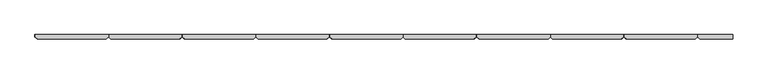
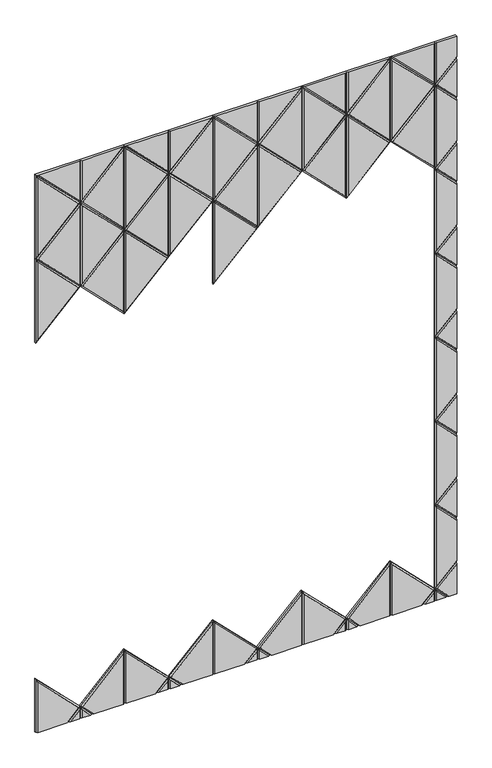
"""IFC4 building model written with IfcOpenShell, lengths in millimetres: proxy geometry, Wall_Akebia 6.3dm."""

from ifc_helpers import new_model, si_unit, origin, place, context, project, spatial, faceted_brep, source, transform, mapped, element, save


def generic_models_e9bd2cd0(model_context):
    return source(origin(), model_context, "Body", "Brep", [
        faceted_brep([(7817.1800942, 12.0, 2166.8919435), (7606.1440754, 12.0, 1955.8559246), (7606.1440754, 12.0, 2377.9279623), (7817.1800942, 6.0, 2166.8919435), (7606.1440754, 6.0, 2377.9279623), (7606.1440754, 6.0, 1955.8559246), (7612.1440754, 0.0, 1970.341206), (7808.6948129, 0.0, 2166.8919435), (7612.1440754, 0.0, 2363.4426809)], [[[0, 1, 2]], [[3, 0, 2, 4]], [[4, 2, 1, 5]], [[5, 1, 0, 3]], [[6, 7, 8]], [[3, 4, 8, 7]], [[4, 5, 6, 8]], [[5, 3, 7, 6]]]),
        faceted_brep([(6973.0360188, 12.0, 2166.8919435), (7184.0720377, 12.0, 2377.9279623), (7184.0720377, 12.0, 1955.8559246), (6973.0360188, 6.0, 2166.8919435), (7184.0720377, 6.0, 2377.9279623), (7184.0720377, 6.0, 1955.8559246), (7178.0720377, 0.0, 1970.341206), (7178.0720377, 0.0, 2363.4426809), (6981.5213002, 0.0, 2166.8919435)], [[[0, 1, 2]], [[3, 4, 1, 0]], [[4, 5, 2, 1]], [[5, 3, 0, 2]], [[6, 7, 8]], [[3, 8, 7, 4]], [[4, 7, 6, 5]], [[5, 6, 8, 3]]]),
        faceted_brep([(7395.1080565, 12.0, 2166.8919435), (7184.0720377, 12.0, 1955.8559246), (7184.0720377, 12.0, 2377.9279623), (7395.1080565, 6.0, 2166.8919435), (7184.0720377, 6.0, 2377.9279623), (7184.0720377, 6.0, 1955.8559246), (7190.0720377, 0.0, 1970.341206), (7386.6227752, 0.0, 2166.8919435), (7190.0720377, 0.0, 2363.4426809)], [[[0, 1, 2]], [[3, 0, 2, 4]], [[4, 2, 1, 5]], [[5, 1, 0, 3]], [[6, 7, 8]], [[3, 4, 8, 7]], [[4, 5, 6, 8]], [[5, 3, 7, 6]]]),
        faceted_brep([(6973.0360188, 12.0, 2166.8919435), (6762.0, 12.0, 1955.8559246), (6762.0, 12.0, 2377.9279623), (6973.0360188, 6.0, 2166.8919435), (6762.0, 6.0, 2377.9279623), (6762.0, 6.0, 1955.8559246), (6768.0, 0.0, 1970.341206), (6964.5507375, 0.0, 2166.8919435), (6768.0, 0.0, 2363.4426809)], [[[0, 1, 2]], [[3, 0, 2, 4]], [[4, 2, 1, 5]], [[5, 1, 0, 3]], [[6, 7, 8]], [[3, 4, 8, 7]], [[4, 5, 6, 8]], [[5, 3, 7, 6]]]),
        faceted_brep([(8450.2881508, 12.0, 2377.9279623), (8661.3241696, 12.0, 2588.9639812), (8661.3241696, 12.0, 2166.8919435), (8450.2881508, 6.0, 2377.9279623), (8661.3241696, 6.0, 2588.9639812), (8661.3241696, 6.0, 2166.8919435), (8655.3241696, 0.0, 2181.3772248), (8655.3241696, 0.0, 2574.4786998), (8458.7734321, 0.0, 2377.9279623)], [[[0, 1, 2]], [[3, 4, 1, 0]], [[4, 5, 2, 1]], [[5, 3, 0, 2]], [[6, 7, 8]], [[3, 8, 7, 4]], [[4, 7, 6, 5]], [[5, 6, 8, 3]]]),
        faceted_brep([(8028.2161131, 12.0, 2377.9279623), (8239.2521319, 12.0, 2588.9639812), (8239.2521319, 12.0, 2166.8919435), (8028.2161131, 6.0, 2377.9279623), (8239.2521319, 6.0, 2588.9639812), (8239.2521319, 6.0, 2166.8919435), (8233.2521319, 0.0, 2181.3772248), (8233.2521319, 0.0, 2574.4786998), (8036.7013944, 0.0, 2377.9279623)], [[[0, 1, 2]], [[3, 4, 1, 0]], [[4, 5, 2, 1]], [[5, 3, 0, 2]], [[6, 7, 8]], [[3, 8, 7, 4]], [[4, 7, 6, 5]], [[5, 6, 8, 3]]]),
        faceted_brep([(8450.2881508, 12.0, 2377.9279623), (8239.2521319, 12.0, 2166.8919435), (8239.2521319, 12.0, 2588.9639812), (8450.2881508, 6.0, 2377.9279623), (8239.2521319, 6.0, 2588.9639812), (8239.2521319, 6.0, 2166.8919435), (8245.2521319, 0.0, 2181.3772248), (8441.8028694, 0.0, 2377.9279623), (8245.2521319, 0.0, 2574.4786998)], [[[0, 1, 2]], [[3, 0, 2, 4]], [[4, 2, 1, 5]], [[5, 1, 0, 3]], [[6, 7, 8]], [[3, 4, 8, 7]], [[4, 5, 6, 8]], [[5, 3, 7, 6]]]),
        faceted_brep([(7606.1440754, 12.0, 2377.9279623), (7817.1800942, 12.0, 2588.9639812), (7817.1800942, 12.0, 2166.8919435), (7606.1440754, 6.0, 2377.9279623), (7817.1800942, 6.0, 2588.9639812), (7817.1800942, 6.0, 2166.8919435), (7811.1800942, 0.0, 2181.3772248), (7811.1800942, 0.0, 2574.4786998), (7614.6293568, 0.0, 2377.9279623)], [[[0, 1, 2]], [[3, 4, 1, 0]], [[4, 5, 2, 1]], [[5, 3, 0, 2]], [[6, 7, 8]], [[3, 8, 7, 4]], [[4, 7, 6, 5]], [[5, 6, 8, 3]]]),
        faceted_brep([(8028.2161131, 12.0, 2377.9279623), (7817.1800942, 12.0, 2166.8919435), (7817.1800942, 12.0, 2588.9639812), (8028.2161131, 6.0, 2377.9279623), (7817.1800942, 6.0, 2588.9639812), (7817.1800942, 6.0, 2166.8919435), (7823.1800942, 0.0, 2181.3772248), (8019.7308317, 0.0, 2377.9279623), (7823.1800942, 0.0, 2574.4786998)], [[[0, 1, 2]], [[3, 0, 2, 4]], [[4, 2, 1, 5]], [[5, 1, 0, 3]], [[6, 7, 8]], [[3, 4, 8, 7]], [[4, 5, 6, 8]], [[5, 3, 7, 6]]]),
        faceted_brep([(7184.0720377, 12.0, 2377.9279623), (7395.1080565, 12.0, 2588.9639812), (7395.1080565, 12.0, 2166.8919435), (7184.0720377, 6.0, 2377.9279623), (7395.1080565, 6.0, 2588.9639812), (7395.1080565, 6.0, 2166.8919435), (7389.1080565, 0.0, 2181.3772248), (7389.1080565, 0.0, 2574.4786998), (7192.5573191, 0.0, 2377.9279623)], [[[0, 1, 2]], [[3, 4, 1, 0]], [[4, 5, 2, 1]], [[5, 3, 0, 2]], [[6, 7, 8]], [[3, 8, 7, 4]], [[4, 7, 6, 5]], [[5, 6, 8, 3]]]),
        faceted_brep([(7606.1440754, 12.0, 2377.9279623), (7395.1080565, 12.0, 2166.8919435), (7395.1080565, 12.0, 2588.9639812), (7606.1440754, 6.0, 2377.9279623), (7395.1080565, 6.0, 2588.9639812), (7395.1080565, 6.0, 2166.8919435), (7401.1080565, 0.0, 2181.3772248), (7597.658794, 0.0, 2377.9279623), (7401.1080565, 0.0, 2574.4786998)], [[[0, 1, 2]], [[3, 0, 2, 4]], [[4, 2, 1, 5]], [[5, 1, 0, 3]], [[6, 7, 8]], [[3, 4, 8, 7]], [[4, 5, 6, 8]], [[5, 3, 7, 6]]]),
        faceted_brep([(6762.0, 12.0, 2377.9279623), (6973.0360188, 12.0, 2588.9639812), (6973.0360188, 12.0, 2166.8919435), (6762.0, 6.0, 2377.9279623), (6973.0360188, 6.0, 2588.9639812), (6973.0360188, 6.0, 2166.8919435), (6967.0360188, 0.0, 2181.3772248), (6967.0360188, 0.0, 2574.4786998), (6770.4852814, 0.0, 2377.9279623)], [[[0, 1, 2]], [[3, 4, 1, 0]], [[4, 5, 2, 1]], [[5, 3, 0, 2]], [[6, 7, 8]], [[3, 8, 7, 4]], [[4, 7, 6, 5]], [[5, 6, 8, 3]]]),
        faceted_brep([(7184.0720377, 12.0, 2377.9279623), (6973.0360188, 12.0, 2166.8919435), (6973.0360188, 12.0, 2588.9639812), (7184.0720377, 6.0, 2377.9279623), (6973.0360188, 6.0, 2588.9639812), (6973.0360188, 6.0, 2166.8919435), (6979.0360188, 0.0, 2181.3772248), (7175.5867563, 0.0, 2377.9279623), (6979.0360188, 0.0, 2574.4786998)], [[[0, 1, 2]], [[3, 0, 2, 4]], [[4, 2, 1, 5]], [[5, 1, 0, 3]], [[6, 7, 8]], [[3, 4, 8, 7]], [[4, 5, 6, 8]], [[5, 3, 7, 6]]]),
        faceted_brep([(8239.2521319, 12.0, 2588.9639812), (8450.2881508, 12.0, 2800.0), (8450.2881508, 12.0, 2377.9279623), (8239.2521319, 6.0, 2588.9639812), (8450.2881508, 6.0, 2800.0), (8450.2881508, 6.0, 2377.9279623), (8444.2881508, 0.0, 2392.4132437), (8444.2881508, 0.0, 2785.5147186), (8247.7374133, 0.0, 2588.9639812)], [[[0, 1, 2]], [[3, 4, 1, 0]], [[4, 5, 2, 1]], [[5, 3, 0, 2]], [[6, 7, 8]], [[3, 8, 7, 4]], [[4, 7, 6, 5]], [[5, 6, 8, 3]]]),
        faceted_brep([(8661.3241696, 12.0, 2588.9639812), (8450.2881508, 12.0, 2377.9279623), (8450.2881508, 12.0, 2800.0), (8661.3241696, 6.0, 2588.9639812), (8450.2881508, 6.0, 2800.0), (8450.2881508, 6.0, 2377.9279623), (8456.2881508, 0.0, 2392.4132437), (8652.8388882, 0.0, 2588.9639812), (8456.2881508, 0.0, 2785.5147186)], [[[0, 1, 2]], [[3, 0, 2, 4]], [[4, 2, 1, 5]], [[5, 1, 0, 3]], [[6, 7, 8]], [[3, 4, 8, 7]], [[4, 5, 6, 8]], [[5, 3, 7, 6]]]),
        faceted_brep([(7817.1800942, 12.0, 2588.9639812), (8028.2161131, 12.0, 2800.0), (8028.2161131, 12.0, 2377.9279623), (7817.1800942, 6.0, 2588.9639812), (8028.2161131, 6.0, 2800.0), (8028.2161131, 6.0, 2377.9279623), (8022.2161131, 0.0, 2392.4132437), (8022.2161131, 0.0, 2785.5147186), (7825.6653756, 0.0, 2588.9639812)], [[[0, 1, 2]], [[3, 4, 1, 0]], [[4, 5, 2, 1]], [[5, 3, 0, 2]], [[6, 7, 8]], [[3, 8, 7, 4]], [[4, 7, 6, 5]], [[5, 6, 8, 3]]]),
        faceted_brep([(8239.2521319, 12.0, 2588.9639812), (8028.2161131, 12.0, 2377.9279623), (8028.2161131, 12.0, 2800.0), (8239.2521319, 6.0, 2588.9639812), (8028.2161131, 6.0, 2800.0), (8028.2161131, 6.0, 2377.9279623), (8034.2161131, 0.0, 2392.4132437), (8230.7668505, 0.0, 2588.9639812), (8034.2161131, 0.0, 2785.5147186)], [[[0, 1, 2]], [[3, 0, 2, 4]], [[4, 2, 1, 5]], [[5, 1, 0, 3]], [[6, 7, 8]], [[3, 4, 8, 7]], [[4, 5, 6, 8]], [[5, 3, 7, 6]]]),
        faceted_brep([(7395.1080565, 12.0, 2588.9639812), (7606.1440754, 12.0, 2800.0), (7606.1440754, 12.0, 2377.9279623), (7395.1080565, 6.0, 2588.9639812), (7606.1440754, 6.0, 2800.0), (7606.1440754, 6.0, 2377.9279623), (7600.1440754, 0.0, 2392.4132437), (7600.1440754, 0.0, 2785.5147186), (7403.5933379, 0.0, 2588.9639812)], [[[0, 1, 2]], [[3, 4, 1, 0]], [[4, 5, 2, 1]], [[5, 3, 0, 2]], [[6, 7, 8]], [[3, 8, 7, 4]], [[4, 7, 6, 5]], [[5, 6, 8, 3]]]),
        faceted_brep([(7817.1800942, 12.0, 2588.9639812), (7606.1440754, 12.0, 2377.9279623), (7606.1440754, 12.0, 2800.0), (7817.1800942, 6.0, 2588.9639812), (7606.1440754, 6.0, 2800.0), (7606.1440754, 6.0, 2377.9279623), (7612.1440754, 0.0, 2392.4132437), (7808.6948129, 0.0, 2588.9639812), (7612.1440754, 0.0, 2785.5147186)], [[[0, 1, 2]], [[3, 0, 2, 4]], [[4, 2, 1, 5]], [[5, 1, 0, 3]], [[6, 7, 8]], [[3, 4, 8, 7]], [[4, 5, 6, 8]], [[5, 3, 7, 6]]]),
        faceted_brep([(6973.0360188, 12.0, 2588.9639812), (7184.0720377, 12.0, 2800.0), (7184.0720377, 12.0, 2377.9279623), (6973.0360188, 6.0, 2588.9639812), (7184.0720377, 6.0, 2800.0), (7184.0720377, 6.0, 2377.9279623), (7178.0720377, 0.0, 2392.4132437), (7178.0720377, 0.0, 2785.5147186), (6981.5213002, 0.0, 2588.9639812)], [[[0, 1, 2]], [[3, 4, 1, 0]], [[4, 5, 2, 1]], [[5, 3, 0, 2]], [[6, 7, 8]], [[3, 8, 7, 4]], [[4, 7, 6, 5]], [[5, 6, 8, 3]]]),
        faceted_brep([(7395.1080565, 12.0, 2588.9639812), (7184.0720377, 12.0, 2377.9279623), (7184.0720377, 12.0, 2800.0), (7395.1080565, 6.0, 2588.9639812), (7184.0720377, 6.0, 2800.0), (7184.0720377, 6.0, 2377.9279623), (7190.0720377, 0.0, 2392.4132437), (7386.6227752, 0.0, 2588.9639812), (7190.0720377, 0.0, 2785.5147186)], [[[0, 1, 2]], [[3, 0, 2, 4]], [[4, 2, 1, 5]], [[5, 1, 0, 3]], [[6, 7, 8]], [[3, 4, 8, 7]], [[4, 5, 6, 8]], [[5, 3, 7, 6]]]),
        faceted_brep([(6973.0360188, 12.0, 2588.9639812), (6762.0, 12.0, 2377.9279623), (6762.0, 12.0, 2800.0), (6973.0360188, 6.0, 2588.9639812), (6762.0, 6.0, 2800.0), (6762.0, 6.0, 2377.9279623), (6768.0, 0.0, 2392.4132437), (6964.5507375, 0.0, 2588.9639812), (6768.0, 0.0, 2785.5147186)], [[[0, 1, 2]], [[3, 0, 2, 4]], [[4, 2, 1, 5]], [[5, 1, 0, 3]], [[6, 7, 8]], [[3, 4, 8, 7]], [[4, 5, 6, 8]], [[5, 3, 7, 6]]]),
        faceted_brep([(8661.3241696, 12.0, 0.0), (8604.7924146, 12.0, 0.0), (8661.3241696, 12.0, 56.531755), (8604.7924146, 6.0, 0.0), (8661.3241696, 6.0, 56.531755), (8661.3241696, 6.0, 0.0), (8655.3241696, 0.0, 0.0), (8655.3241696, 0.0, 42.0464736), (8613.277696, 0.0, 0.0)], [[[0, 1, 2]], [[3, 4, 2, 1]], [[0, 2, 4, 5]], [[6, 7, 8]], [[8, 7, 4, 3]], [[5, 4, 7, 6]], [[0, 5, 6, 8, 3, 1]]]),
        faceted_brep([(8661.3241696, 12.0, 0.0), (8661.3241696, 12.0, 56.531755), (8717.8559246, 12.0, 0.0), (8717.8559246, 6.0, 0.0), (8661.3241696, 6.0, 56.531755), (8661.3241696, 6.0, 0.0), (8667.3241696, 0.0, 0.0), (8709.3706432, 0.0, 0.0), (8667.3241696, 0.0, 42.0464736)], [[[0, 1, 2]], [[3, 2, 1, 4]], [[0, 5, 4, 1]], [[6, 7, 8]], [[7, 3, 4, 8]], [[5, 6, 8, 4]], [[0, 2, 3, 7, 6, 5]]]),
        faceted_brep([(8239.2521319, 12.0, 0.0), (8182.7203769, 12.0, 0.0), (8239.2521319, 12.0, 56.531755), (8182.7203769, 6.0, 0.0), (8239.2521319, 6.0, 56.531755), (8239.2521319, 6.0, 0.0), (8233.2521319, 0.0, 0.0), (8233.2521319, 0.0, 42.0464736), (8191.2056583, 0.0, 0.0)], [[[0, 1, 2]], [[3, 4, 2, 1]], [[0, 2, 4, 5]], [[6, 7, 8]], [[8, 7, 4, 3]], [[5, 4, 7, 6]], [[0, 5, 6, 8, 3, 1]]]),
        faceted_brep([(8239.2521319, 12.0, 0.0), (8239.2521319, 12.0, 56.531755), (8295.7838869, 12.0, 0.0), (8295.7838869, 6.0, 0.0), (8239.2521319, 6.0, 56.531755), (8239.2521319, 6.0, 0.0), (8245.2521319, 0.0, 0.0), (8287.2986056, 0.0, 0.0), (8245.2521319, 0.0, 42.0464736)], [[[0, 1, 2]], [[3, 2, 1, 4]], [[0, 5, 4, 1]], [[6, 7, 8]], [[7, 3, 4, 8]], [[5, 6, 8, 4]], [[0, 2, 3, 7, 6, 5]]]),
        faceted_brep([(7817.1800942, 12.0, 0.0), (7760.6483392, 12.0, 0.0), (7817.1800942, 12.0, 56.531755), (7760.6483392, 6.0, 0.0), (7817.1800942, 6.0, 56.531755), (7817.1800942, 6.0, 0.0), (7811.1800942, 0.0, 0.0), (7811.1800942, 0.0, 42.0464736), (7769.1336206, 0.0, 0.0)], [[[0, 1, 2]], [[3, 4, 2, 1]], [[0, 2, 4, 5]], [[6, 7, 8]], [[8, 7, 4, 3]], [[5, 4, 7, 6]], [[0, 5, 6, 8, 3, 1]]]),
        faceted_brep([(7817.1800942, 12.0, 0.0), (7817.1800942, 12.0, 56.531755), (7873.7118492, 12.0, 0.0), (7873.7118492, 6.0, 0.0), (7817.1800942, 6.0, 56.531755), (7817.1800942, 6.0, 0.0), (7823.1800942, 0.0, 0.0), (7865.2265679, 0.0, 0.0), (7823.1800942, 0.0, 42.0464736)], [[[0, 1, 2]], [[3, 2, 1, 4]], [[0, 5, 4, 1]], [[6, 7, 8]], [[7, 3, 4, 8]], [[5, 6, 8, 4]], [[0, 2, 3, 7, 6, 5]]]),
        faceted_brep([(7395.1080565, 12.0, 0.0), (7338.5763015, 12.0, 0.0), (7395.1080565, 12.0, 56.531755), (7338.5763015, 6.0, 0.0), (7395.1080565, 6.0, 56.531755), (7395.1080565, 6.0, 0.0), (7389.1080565, 0.0, 0.0), (7389.1080565, 0.0, 42.0464736), (7347.0615829, 0.0, 0.0)], [[[0, 1, 2]], [[3, 4, 2, 1]], [[0, 2, 4, 5]], [[6, 7, 8]], [[8, 7, 4, 3]], [[5, 4, 7, 6]], [[0, 5, 6, 8, 3, 1]]]),
        faceted_brep([(7395.1080565, 12.0, 0.0), (7395.1080565, 12.0, 56.531755), (7451.6398115, 12.0, 0.0), (7451.6398115, 6.0, 0.0), (7395.1080565, 6.0, 56.531755), (7395.1080565, 6.0, 0.0), (7401.1080565, 0.0, 0.0), (7443.1545302, 0.0, 0.0), (7401.1080565, 0.0, 42.0464736)], [[[0, 1, 2]], [[3, 2, 1, 4]], [[0, 5, 4, 1]], [[6, 7, 8]], [[7, 3, 4, 8]], [[5, 6, 8, 4]], [[0, 2, 3, 7, 6, 5]]]),
        faceted_brep([(6973.0360188, 12.0, 0.0), (6916.5042638, 12.0, 0.0), (6973.0360188, 12.0, 56.531755), (6916.5042638, 6.0, 0.0), (6973.0360188, 6.0, 56.531755), (6973.0360188, 6.0, 0.0), (6967.0360188, 0.0, 0.0), (6967.0360188, 0.0, 42.0464736), (6924.9895452, 0.0, 0.0)], [[[0, 1, 2]], [[3, 4, 2, 1]], [[0, 2, 4, 5]], [[6, 7, 8]], [[8, 7, 4, 3]], [[5, 4, 7, 6]], [[0, 5, 6, 8, 3, 1]]]),
        faceted_brep([(6973.0360188, 12.0, 0.0), (6973.0360188, 12.0, 56.531755), (7029.5677739, 12.0, 0.0), (7029.5677739, 6.0, 0.0), (6973.0360188, 6.0, 56.531755), (6973.0360188, 6.0, 0.0), (6979.0360188, 0.0, 0.0), (7021.0824925, 0.0, 0.0), (6979.0360188, 0.0, 42.0464736)], [[[0, 1, 2]], [[3, 2, 1, 4]], [[0, 5, 4, 1]], [[6, 7, 8]], [[7, 3, 4, 8]], [[5, 6, 8, 4]], [[0, 2, 3, 7, 6, 5]]]),
        faceted_brep([(8762.0, 12.0, 157.2075854), (8762.0, 12.0, 0.0), (8717.8559246, 12.0, 0.0), (8661.3241696, 12.0, 56.531755), (8661.3241696, 6.0, 56.531755), (8762.0, 6.0, 157.2075854), (8717.8559246, 6.0, 0.0), (8762.0, 0.0, 0.0), (8762.0, 0.0, 148.722304), (8669.809451, 0.0, 56.531755), (8726.341206, 0.0, 0.0)], [[[0, 1, 2, 3]], [[0, 3, 4, 5]], [[6, 4, 3, 2]], [[7, 8, 9, 10]], [[5, 4, 9, 8]], [[10, 9, 4, 6]], [[0, 5, 8, 7, 1]], [[7, 10, 6, 2, 1]]]),
        faceted_brep([(8450.2881508, 12.0, 0.0), (8295.7838869, 12.0, 0.0), (8239.2521319, 12.0, 56.531755), (8450.2881508, 12.0, 267.5677739), (8239.2521319, 6.0, 56.531755), (8450.2881508, 6.0, 267.5677739), (8450.2881508, 6.0, 0.0), (8295.7838869, 6.0, 0.0), (8444.2881508, 0.0, 0.0), (8444.2881508, 0.0, 253.0824925), (8247.7374133, 0.0, 56.531755), (8304.2691683, 0.0, 0.0)], [[[0, 1, 2, 3]], [[4, 5, 3, 2]], [[0, 3, 5, 6]], [[7, 4, 2, 1]], [[8, 9, 10, 11]], [[4, 10, 9, 5]], [[6, 5, 9, 8]], [[11, 10, 4, 7]], [[0, 6, 8, 11, 7, 1]]]),
        faceted_brep([(8450.2881508, 12.0, 0.0), (8450.2881508, 12.0, 267.5677739), (8661.3241696, 12.0, 56.531755), (8604.7924146, 12.0, 0.0), (8661.3241696, 6.0, 56.531755), (8450.2881508, 6.0, 267.5677739), (8450.2881508, 6.0, 0.0), (8604.7924146, 6.0, 0.0), (8456.2881508, 0.0, 0.0), (8596.3071332, 0.0, 0.0), (8652.8388882, 0.0, 56.531755), (8456.2881508, 0.0, 253.0824925)], [[[0, 1, 2, 3]], [[4, 2, 1, 5]], [[0, 6, 5, 1]], [[7, 3, 2, 4]], [[8, 9, 10, 11]], [[4, 5, 11, 10]], [[6, 8, 11, 5]], [[9, 7, 4, 10]], [[0, 3, 7, 9, 8, 6]]]),
        faceted_brep([(8028.2161131, 12.0, 0.0), (7873.7118492, 12.0, 0.0), (7817.1800942, 12.0, 56.531755), (8028.2161131, 12.0, 267.5677739), (7817.1800942, 6.0, 56.531755), (8028.2161131, 6.0, 267.5677739), (8028.2161131, 6.0, 0.0), (7873.7118492, 6.0, 0.0), (8022.2161131, 0.0, 0.0), (8022.2161131, 0.0, 253.0824925), (7825.6653756, 0.0, 56.531755), (7882.1971306, 0.0, 0.0)], [[[0, 1, 2, 3]], [[4, 5, 3, 2]], [[0, 3, 5, 6]], [[7, 4, 2, 1]], [[8, 9, 10, 11]], [[4, 10, 9, 5]], [[6, 5, 9, 8]], [[11, 10, 4, 7]], [[0, 6, 8, 11, 7, 1]]]),
        faceted_brep([(8028.2161131, 12.0, 0.0), (8028.2161131, 12.0, 267.5677739), (8239.2521319, 12.0, 56.531755), (8182.7203769, 12.0, 0.0), (8239.2521319, 6.0, 56.531755), (8028.2161131, 6.0, 267.5677739), (8028.2161131, 6.0, 0.0), (8182.7203769, 6.0, 0.0), (8034.2161131, 0.0, 0.0), (8174.2350955, 0.0, 0.0), (8230.7668505, 0.0, 56.531755), (8034.2161131, 0.0, 253.0824925)], [[[0, 1, 2, 3]], [[4, 2, 1, 5]], [[0, 6, 5, 1]], [[7, 3, 2, 4]], [[8, 9, 10, 11]], [[4, 5, 11, 10]], [[6, 8, 11, 5]], [[9, 7, 4, 10]], [[0, 3, 7, 9, 8, 6]]]),
        faceted_brep([(7606.1440754, 12.0, 0.0), (7451.6398115, 12.0, 0.0), (7395.1080565, 12.0, 56.531755), (7606.1440754, 12.0, 267.5677739), (7395.1080565, 6.0, 56.531755), (7606.1440754, 6.0, 267.5677739), (7606.1440754, 6.0, 0.0), (7451.6398115, 6.0, 0.0), (7600.1440754, 0.0, 0.0), (7600.1440754, 0.0, 253.0824925), (7403.5933379, 0.0, 56.531755), (7460.1250929, 0.0, 0.0)], [[[0, 1, 2, 3]], [[4, 5, 3, 2]], [[0, 3, 5, 6]], [[7, 4, 2, 1]], [[8, 9, 10, 11]], [[4, 10, 9, 5]], [[6, 5, 9, 8]], [[11, 10, 4, 7]], [[0, 6, 8, 11, 7, 1]]]),
        faceted_brep([(7606.1440754, 12.0, 0.0), (7606.1440754, 12.0, 267.5677739), (7817.1800942, 12.0, 56.531755), (7760.6483392, 12.0, 0.0), (7817.1800942, 6.0, 56.531755), (7606.1440754, 6.0, 267.5677739), (7606.1440754, 6.0, 0.0), (7760.6483392, 6.0, 0.0), (7612.1440754, 0.0, 0.0), (7752.1630578, 0.0, 0.0), (7808.6948129, 0.0, 56.531755), (7612.1440754, 0.0, 253.0824925)], [[[0, 1, 2, 3]], [[4, 2, 1, 5]], [[0, 6, 5, 1]], [[7, 3, 2, 4]], [[8, 9, 10, 11]], [[4, 5, 11, 10]], [[6, 8, 11, 5]], [[9, 7, 4, 10]], [[0, 3, 7, 9, 8, 6]]]),
        faceted_brep([(7184.0720377, 12.0, 0.0), (7029.5677739, 12.0, 0.0), (6973.0360188, 12.0, 56.531755), (7184.0720377, 12.0, 267.5677739), (6973.0360188, 6.0, 56.531755), (7184.0720377, 6.0, 267.5677739), (7184.0720377, 6.0, 0.0), (7029.5677739, 6.0, 0.0), (7178.0720377, 0.0, 0.0), (7178.0720377, 0.0, 253.0824925), (6981.5213002, 0.0, 56.531755), (7038.0530552, 0.0, 0.0)], [[[0, 1, 2, 3]], [[4, 5, 3, 2]], [[0, 3, 5, 6]], [[7, 4, 2, 1]], [[8, 9, 10, 11]], [[4, 10, 9, 5]], [[6, 5, 9, 8]], [[11, 10, 4, 7]], [[0, 6, 8, 11, 7, 1]]]),
        faceted_brep([(7184.0720377, 12.0, 0.0), (7184.0720377, 12.0, 267.5677739), (7395.1080565, 12.0, 56.531755), (7338.5763015, 12.0, 0.0), (7395.1080565, 6.0, 56.531755), (7184.0720377, 6.0, 267.5677739), (7184.0720377, 6.0, 0.0), (7338.5763015, 6.0, 0.0), (7190.0720377, 0.0, 0.0), (7330.0910201, 0.0, 0.0), (7386.6227752, 0.0, 56.531755), (7190.0720377, 0.0, 253.0824925)], [[[0, 1, 2, 3]], [[4, 2, 1, 5]], [[0, 6, 5, 1]], [[7, 3, 2, 4]], [[8, 9, 10, 11]], [[4, 5, 11, 10]], [[6, 8, 11, 5]], [[9, 7, 4, 10]], [[0, 3, 7, 9, 8, 6]]]),
        faceted_brep([(6762.0, 12.0, 0.0), (6762.0, 12.0, 267.5677739), (6973.0360188, 12.0, 56.531755), (6916.5042638, 12.0, 0.0), (6973.0360188, 6.0, 56.531755), (6762.0, 6.0, 267.5677739), (6916.5042638, 6.0, 0.0), (6768.0, 0.0, 0.0), (6908.0189825, 0.0, 0.0), (6964.5507375, 0.0, 56.531755), (6768.0, 0.0, 253.0824925), (6762.0, 6.0, 0.0)], [[[0, 1, 2, 3]], [[4, 2, 1, 5]], [[6, 3, 2, 4]], [[7, 8, 9, 10]], [[4, 5, 10, 9]], [[11, 7, 10, 5]], [[8, 6, 4, 9]], [[7, 11, 0, 3, 6, 8]], [[1, 0, 11, 5]]]),
        faceted_brep([(8762.0, 12.0, 157.2075854), (8661.3241696, 12.0, 56.531755), (8661.3241696, 12.0, 478.6037927), (8762.0, 12.0, 377.9279623), (8762.0, 6.0, 377.9279623), (8661.3241696, 6.0, 478.6037927), (8661.3241696, 6.0, 56.531755), (8762.0, 6.0, 157.2075854), (8762.0, 0.0, 165.6928668), (8762.0, 0.0, 369.4426809), (8667.3241696, 0.0, 464.1185113), (8667.3241696, 0.0, 71.0170364)], [[[0, 1, 2, 3]], [[4, 3, 2, 5]], [[5, 2, 1, 6]], [[0, 7, 6, 1]], [[8, 9, 10, 11]], [[9, 4, 5, 10]], [[5, 6, 11, 10]], [[7, 8, 11, 6]], [[0, 3, 4, 9, 8, 7]]]),
        faceted_brep([(8762.0, 12.0, 579.2796231), (8762.0, 12.0, 377.9279623), (8661.3241696, 12.0, 478.6037927), (8661.3241696, 6.0, 478.6037927), (8762.0, 6.0, 579.2796231), (8762.0, 6.0, 377.9279623), (8762.0, 0.0, 570.7943417), (8669.809451, 0.0, 478.6037927), (8762.0, 0.0, 386.4132437)], [[[0, 1, 2]], [[0, 2, 3, 4]], [[5, 3, 2, 1]], [[6, 7, 8]], [[4, 3, 7, 6]], [[8, 7, 3, 5]], [[0, 4, 6, 8, 5, 1]]]),
        faceted_brep([(8762.0, 12.0, 579.2796231), (8661.3241696, 12.0, 478.6037927), (8661.3241696, 12.0, 900.6758304), (8762.0, 12.0, 800.0), (8762.0, 6.0, 800.0), (8661.3241696, 6.0, 900.6758304), (8661.3241696, 6.0, 478.6037927), (8762.0, 6.0, 579.2796231), (8762.0, 0.0, 587.7649045), (8762.0, 0.0, 791.5147186), (8667.3241696, 0.0, 886.190549), (8667.3241696, 0.0, 493.0890741)], [[[0, 1, 2, 3]], [[4, 3, 2, 5]], [[5, 2, 1, 6]], [[0, 7, 6, 1]], [[8, 9, 10, 11]], [[9, 4, 5, 10]], [[5, 6, 11, 10]], [[7, 8, 11, 6]], [[0, 3, 4, 9, 8, 7]]]),
        faceted_brep([(8762.0, 12.0, 1001.3516608), (8762.0, 12.0, 800.0), (8661.3241696, 12.0, 900.6758304), (8661.3241696, 6.0, 900.6758304), (8762.0, 6.0, 1001.3516608), (8762.0, 6.0, 800.0), (8762.0, 0.0, 992.8663794), (8669.809451, 0.0, 900.6758304), (8762.0, 0.0, 808.4852814)], [[[0, 1, 2]], [[0, 2, 3, 4]], [[5, 3, 2, 1]], [[6, 7, 8]], [[4, 3, 7, 6]], [[8, 7, 3, 5]], [[0, 4, 6, 8, 5, 1]]]),
        faceted_brep([(8762.0, 12.0, 1001.3516608), (8661.3241696, 12.0, 900.6758304), (8661.3241696, 12.0, 1322.7478681), (8762.0, 12.0, 1222.0720377), (8762.0, 6.0, 1222.0720377), (8661.3241696, 6.0, 1322.7478681), (8661.3241696, 6.0, 900.6758304), (8762.0, 6.0, 1001.3516608), (8762.0, 0.0, 1009.8369422), (8762.0, 0.0, 1213.5867563), (8667.3241696, 0.0, 1308.2625867), (8667.3241696, 0.0, 915.1611118)], [[[0, 1, 2, 3]], [[4, 3, 2, 5]], [[5, 2, 1, 6]], [[0, 7, 6, 1]], [[8, 9, 10, 11]], [[9, 4, 5, 10]], [[5, 6, 11, 10]], [[7, 8, 11, 6]], [[0, 3, 4, 9, 8, 7]]]),
        faceted_brep([(8762.0, 12.0, 1423.4236985), (8762.0, 12.0, 1222.0720377), (8661.3241696, 12.0, 1322.7478681), (8661.3241696, 6.0, 1322.7478681), (8762.0, 6.0, 1423.4236985), (8762.0, 6.0, 1222.0720377), (8762.0, 0.0, 1414.9384171), (8669.809451, 0.0, 1322.7478681), (8762.0, 0.0, 1230.5573191)], [[[0, 1, 2]], [[0, 2, 3, 4]], [[5, 3, 2, 1]], [[6, 7, 8]], [[4, 3, 7, 6]], [[8, 7, 3, 5]], [[0, 4, 6, 8, 5, 1]]]),
        faceted_brep([(8762.0, 12.0, 1423.4236985), (8661.3241696, 12.0, 1322.7478681), (8661.3241696, 12.0, 1744.8199058), (8762.0, 12.0, 1644.1440754), (8762.0, 6.0, 1644.1440754), (8661.3241696, 6.0, 1744.8199058), (8661.3241696, 6.0, 1322.7478681), (8762.0, 6.0, 1423.4236985), (8762.0, 0.0, 1431.9089799), (8762.0, 0.0, 1635.658794), (8667.3241696, 0.0, 1730.3346244), (8667.3241696, 0.0, 1337.2331495)], [[[0, 1, 2, 3]], [[4, 3, 2, 5]], [[5, 2, 1, 6]], [[0, 7, 6, 1]], [[8, 9, 10, 11]], [[9, 4, 5, 10]], [[5, 6, 11, 10]], [[7, 8, 11, 6]], [[0, 3, 4, 9, 8, 7]]]),
        faceted_brep([(8762.0, 12.0, 1845.4957362), (8762.0, 12.0, 1644.1440754), (8661.3241696, 12.0, 1744.8199058), (8661.3241696, 6.0, 1744.8199058), (8762.0, 6.0, 1845.4957362), (8762.0, 6.0, 1644.1440754), (8762.0, 0.0, 1837.0104548), (8669.809451, 0.0, 1744.8199058), (8762.0, 0.0, 1652.6293568)], [[[0, 1, 2]], [[0, 2, 3, 4]], [[5, 3, 2, 1]], [[6, 7, 8]], [[4, 3, 7, 6]], [[8, 7, 3, 5]], [[0, 4, 6, 8, 5, 1]]]),
        faceted_brep([(8762.0, 12.0, 1845.4957362), (8661.3241696, 12.0, 1744.8199058), (8661.3241696, 12.0, 2166.8919435), (8762.0, 12.0, 2066.2161131), (8762.0, 6.0, 2066.2161131), (8661.3241696, 6.0, 2166.8919435), (8661.3241696, 6.0, 1744.8199058), (8762.0, 6.0, 1845.4957362), (8762.0, 0.0, 1853.9810175), (8762.0, 0.0, 2057.7308317), (8667.3241696, 0.0, 2152.4066621), (8667.3241696, 0.0, 1759.3051871)], [[[0, 1, 2, 3]], [[4, 3, 2, 5]], [[5, 2, 1, 6]], [[0, 7, 6, 1]], [[8, 9, 10, 11]], [[9, 4, 5, 10]], [[5, 6, 11, 10]], [[7, 8, 11, 6]], [[0, 3, 4, 9, 8, 7]]]),
        faceted_brep([(8762.0, 12.0, 2267.5677739), (8762.0, 12.0, 2066.2161131), (8661.3241696, 12.0, 2166.8919435), (8661.3241696, 6.0, 2166.8919435), (8762.0, 6.0, 2267.5677739), (8762.0, 6.0, 2066.2161131), (8762.0, 0.0, 2259.0824925), (8669.809451, 0.0, 2166.8919435), (8762.0, 0.0, 2074.7013944)], [[[0, 1, 2]], [[0, 2, 3, 4]], [[5, 3, 2, 1]], [[6, 7, 8]], [[4, 3, 7, 6]], [[8, 7, 3, 5]], [[0, 4, 6, 8, 5, 1]]]),
        faceted_brep([(8762.0, 12.0, 2267.5677739), (8661.3241696, 12.0, 2166.8919435), (8661.3241696, 12.0, 2588.9639812), (8762.0, 12.0, 2488.2881508), (8762.0, 6.0, 2488.2881508), (8661.3241696, 6.0, 2588.9639812), (8661.3241696, 6.0, 2166.8919435), (8762.0, 6.0, 2267.5677739), (8762.0, 0.0, 2276.0530552), (8762.0, 0.0, 2479.8028694), (8667.3241696, 0.0, 2574.4786998), (8667.3241696, 0.0, 2181.3772248)], [[[0, 1, 2, 3]], [[4, 3, 2, 5]], [[5, 2, 1, 6]], [[0, 7, 6, 1]], [[8, 9, 10, 11]], [[9, 4, 5, 10]], [[5, 6, 11, 10]], [[7, 8, 11, 6]], [[0, 3, 4, 9, 8, 7]]]),
        faceted_brep([(8762.0, 12.0, 2689.6398115), (8762.0, 12.0, 2488.2881508), (8661.3241696, 12.0, 2588.9639812), (8661.3241696, 6.0, 2588.9639812), (8762.0, 6.0, 2689.6398115), (8762.0, 6.0, 2488.2881508), (8762.0, 0.0, 2681.1545302), (8669.809451, 0.0, 2588.9639812), (8762.0, 0.0, 2496.7734321)], [[[0, 1, 2]], [[0, 2, 3, 4]], [[5, 3, 2, 1]], [[6, 7, 8]], [[4, 3, 7, 6]], [[8, 7, 3, 5]], [[0, 4, 6, 8, 5, 1]]]),
        faceted_brep([(8661.3241696, 6.0, 2588.9639812), (8450.2881508, 6.0, 2800.0), (8450.2881508, 12.0, 2800.0), (8661.3241696, 12.0, 2588.9639812), (8655.3241696, 0.0, 2603.4492625), (8458.7734321, 0.0, 2800.0), (8661.3241696, 12.0, 2800.0), (8661.3241696, 6.0, 2800.0), (8655.3241696, 0.0, 2800.0)], [[[0, 1, 2, 3]], [[0, 4, 5, 1]], [[6, 3, 2]], [[6, 7, 0, 3]], [[8, 5, 4]], [[7, 8, 4, 0]], [[6, 2, 1, 5, 8, 7]]]),
        faceted_brep([(8762.0, 12.0, 2689.6398115), (8661.3241696, 12.0, 2588.9639812), (8661.3241696, 12.0, 2800.0), (8762.0, 12.0, 2800.0), (8762.0, 6.0, 2689.6398115), (8661.3241696, 6.0, 2588.9639812), (8762.0, 0.0, 2698.1250929), (8667.3241696, 0.0, 2603.4492625), (8667.3241696, 0.0, 2800.0), (8762.0, 0.0, 2800.0), (8661.3241696, 6.0, 2800.0)], [[[0, 1, 2, 3]], [[0, 4, 5, 1]], [[4, 6, 7, 5]], [[8, 9, 3, 2, 10]], [[2, 1, 5, 10]], [[8, 7, 6, 9]], [[10, 5, 7, 8]], [[0, 3, 9, 6, 4]]]),
        faceted_brep([(8239.2521319, 6.0, 2588.9639812), (8028.2161131, 6.0, 2800.0), (8028.2161131, 12.0, 2800.0), (8239.2521319, 12.0, 2588.9639812), (8233.2521319, 0.0, 2603.4492625), (8036.7013944, 0.0, 2800.0), (8239.2521319, 12.0, 2800.0), (8239.2521319, 6.0, 2800.0), (8233.2521319, 0.0, 2800.0)], [[[0, 1, 2, 3]], [[0, 4, 5, 1]], [[6, 3, 2]], [[6, 7, 0, 3]], [[8, 5, 4]], [[7, 8, 4, 0]], [[6, 2, 1, 5, 8, 7]]]),
        faceted_brep([(8239.2521319, 6.0, 2588.9639812), (8239.2521319, 12.0, 2588.9639812), (8450.2881508, 12.0, 2800.0), (8450.2881508, 6.0, 2800.0), (8441.8028694, 0.0, 2800.0), (8245.2521319, 0.0, 2603.4492625), (8239.2521319, 12.0, 2800.0), (8239.2521319, 6.0, 2800.0), (8245.2521319, 0.0, 2800.0)], [[[0, 1, 2, 3]], [[0, 3, 4, 5]], [[6, 2, 1]], [[6, 1, 0, 7]], [[8, 5, 4]], [[7, 0, 5, 8]], [[6, 7, 8, 4, 3, 2]]]),
        faceted_brep([(7817.1800942, 6.0, 2588.9639812), (7606.1440754, 6.0, 2800.0), (7606.1440754, 12.0, 2800.0), (7817.1800942, 12.0, 2588.9639812), (7811.1800942, 0.0, 2603.4492625), (7614.6293568, 0.0, 2800.0), (7817.1800942, 12.0, 2800.0), (7817.1800942, 6.0, 2800.0), (7811.1800942, 0.0, 2800.0)], [[[0, 1, 2, 3]], [[0, 4, 5, 1]], [[6, 3, 2]], [[6, 7, 0, 3]], [[8, 5, 4]], [[7, 8, 4, 0]], [[6, 2, 1, 5, 8, 7]]]),
        faceted_brep([(7817.1800942, 6.0, 2588.9639812), (7817.1800942, 12.0, 2588.9639812), (8028.2161131, 12.0, 2800.0), (8028.2161131, 6.0, 2800.0), (8019.7308317, 0.0, 2800.0), (7823.1800942, 0.0, 2603.4492625), (7817.1800942, 12.0, 2800.0), (7817.1800942, 6.0, 2800.0), (7823.1800942, 0.0, 2800.0)], [[[0, 1, 2, 3]], [[0, 3, 4, 5]], [[6, 2, 1]], [[6, 1, 0, 7]], [[8, 5, 4]], [[7, 0, 5, 8]], [[6, 7, 8, 4, 3, 2]]]),
        faceted_brep([(7395.1080565, 6.0, 2588.9639812), (7184.0720377, 6.0, 2800.0), (7184.0720377, 12.0, 2800.0), (7395.1080565, 12.0, 2588.9639812), (7389.1080565, 0.0, 2603.4492625), (7192.5573191, 0.0, 2800.0), (7395.1080565, 12.0, 2800.0), (7395.1080565, 6.0, 2800.0), (7389.1080565, 0.0, 2800.0)], [[[0, 1, 2, 3]], [[0, 4, 5, 1]], [[6, 3, 2]], [[6, 7, 0, 3]], [[8, 5, 4]], [[7, 8, 4, 0]], [[6, 2, 1, 5, 8, 7]]]),
        faceted_brep([(7395.1080565, 6.0, 2588.9639812), (7395.1080565, 12.0, 2588.9639812), (7606.1440754, 12.0, 2800.0), (7606.1440754, 6.0, 2800.0), (7597.658794, 0.0, 2800.0), (7401.1080565, 0.0, 2603.4492625), (7395.1080565, 12.0, 2800.0), (7395.1080565, 6.0, 2800.0), (7401.1080565, 0.0, 2800.0)], [[[0, 1, 2, 3]], [[0, 3, 4, 5]], [[6, 2, 1]], [[6, 1, 0, 7]], [[8, 5, 4]], [[7, 0, 5, 8]], [[6, 7, 8, 4, 3, 2]]]),
        faceted_brep([(6973.0360188, 6.0, 2588.9639812), (6762.0, 6.0, 2800.0), (6762.0, 12.0, 2800.0), (6973.0360188, 12.0, 2588.9639812), (6967.0360188, 0.0, 2603.4492625), (6770.4852814, 0.0, 2800.0), (6973.0360188, 12.0, 2800.0), (6967.0360188, 0.0, 2800.0), (6973.0360188, 6.0, 2800.0)], [[[0, 1, 2, 3]], [[0, 4, 5, 1]], [[6, 2, 1, 5, 7, 8]], [[6, 3, 2]], [[6, 8, 0, 3]], [[7, 5, 4]], [[8, 7, 4, 0]]]),
        faceted_brep([(6973.0360188, 6.0, 2588.9639812), (6973.0360188, 12.0, 2588.9639812), (7184.0720377, 12.0, 2800.0), (7184.0720377, 6.0, 2800.0), (7175.5867563, 0.0, 2800.0), (6979.0360188, 0.0, 2603.4492625), (6973.0360188, 12.0, 2800.0), (6973.0360188, 6.0, 2800.0), (6979.0360188, 0.0, 2800.0)], [[[0, 1, 2, 3]], [[0, 3, 4, 5]], [[6, 2, 1]], [[6, 1, 0, 7]], [[8, 5, 4]], [[7, 0, 5, 8]], [[6, 7, 8, 4, 3, 2]]]),
    ])


if __name__ == "__main__":
    model = new_model("IFC4")
    model_context = context("Model", 3, world=origin())
    ifc_project = project(units=[si_unit("LENGTHUNIT", "METRE", prefix="MILLI")], contexts=[model_context])
    site = spatial("IfcSite", under=ifc_project)
    building = spatial("IfcBuilding", under=site)
    placement = place(None, origin())
    generic_models_shape = generic_models_e9bd2cd0(model_context)
    element("IfcBuildingElementProxy", 1, Name="Wall_Akebia 6.3dm", ObjectType="Wall_Akebia 6.3dm", at=placement, inside=building, context=model_context, shape_type="MappedRepresentation", body=[
        mapped(generic_models_shape, transform((0.0, 0.0, 0.0), x_axis=(1.0, 0.0, 0.0), y_axis=(0.0, 1.0, 0.0), z_axis=(0.0, 0.0, 1.0))),
    ])
    save(model, "model.ifc")
